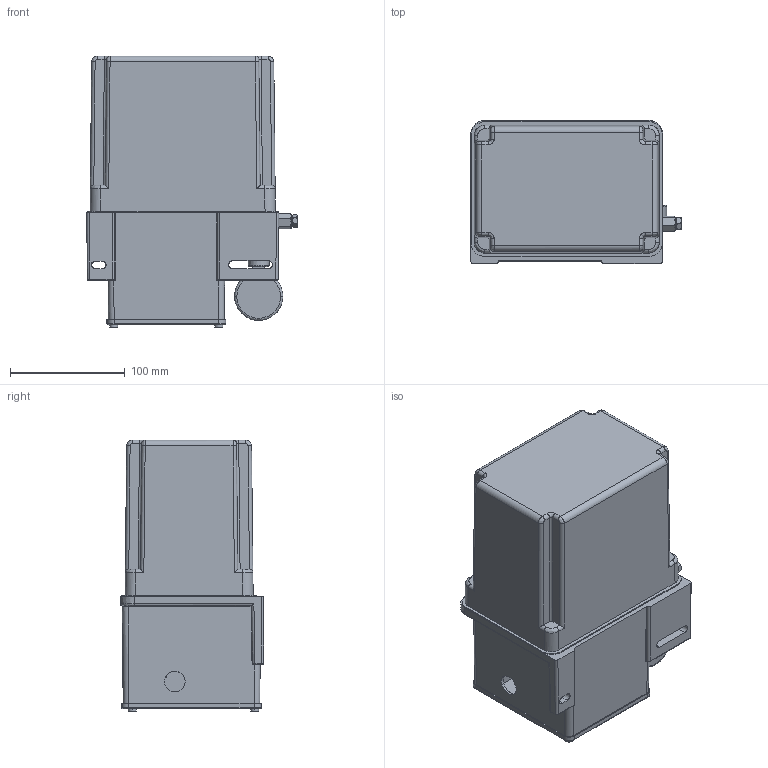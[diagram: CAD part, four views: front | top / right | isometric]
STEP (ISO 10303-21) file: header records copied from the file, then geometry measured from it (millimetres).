
FILE_DESCRIPTION (( 'STEP AP203' ), '1' );
FILE_NAME ('ADL带控制抵坑式2L.STEP', '2020-04-13T03:07:45', ( '个人用户' ), ( '微软中国' ), 'SwSTEP 2.0', 'SolidWorks 2018', '' );
FILE_SCHEMA (( 'CONFIG_CONTROL_DESIGN' ));
Length unit declared in the file: millimetre
Products named in the file (1): ADL湍諷秶萋諧宒2L
Bounding box: 183.14 x 124.44 x 236.32 mm (x, y, z)
Surface area: 220108.1 mm2 (no closed solid volume)
Topology: 0 solids, 37 shells, 719 faces, 2429 edges, 1704 vertices
Faces by surface type: plane 331, cylinder 196, bspline 121, cone 57, sphere 14
Entity records: 36400 total; most frequent: CARTESIAN_POINT 16827, ORIENTED_EDGE 3916, DIRECTION 3625, EDGE_CURVE 2412, VERTEX_POINT 1704, LINE 1333, VECTOR 1333, AXIS2_PLACEMENT_3D 1146
